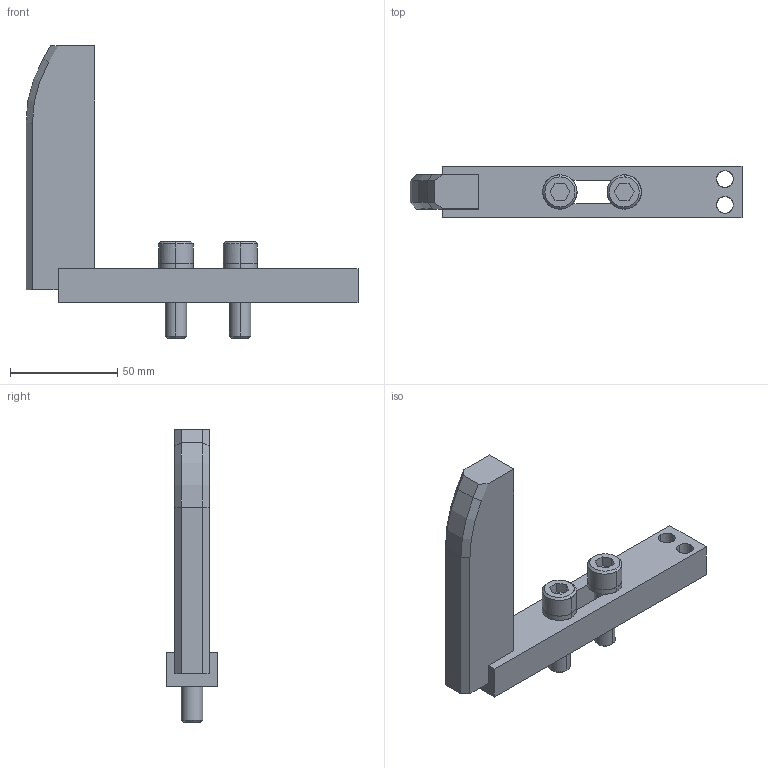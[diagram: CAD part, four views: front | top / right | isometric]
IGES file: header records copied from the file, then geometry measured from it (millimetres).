
Global section: file name: E:\UnigraphicsGraphicData\MISUMI_PRESS-PARTS\IGES\3d_ngnx-120-20-a140-b55-m10_01565_r00.igs; native system: NX V5.0; preprocessor: UGS NX IGES V5.0; author: MISUMI; date: 20110105.162102; units: millimetre
Bounding box: 155 x 24 x 136.5 mm (x, y, z)
Surface area: 30259.4 mm2 (no closed solid volume)
Topology: 0 solids, 0 shells, 100 faces, 630 edges, 630 vertices
Faces by surface type: bspline 100
